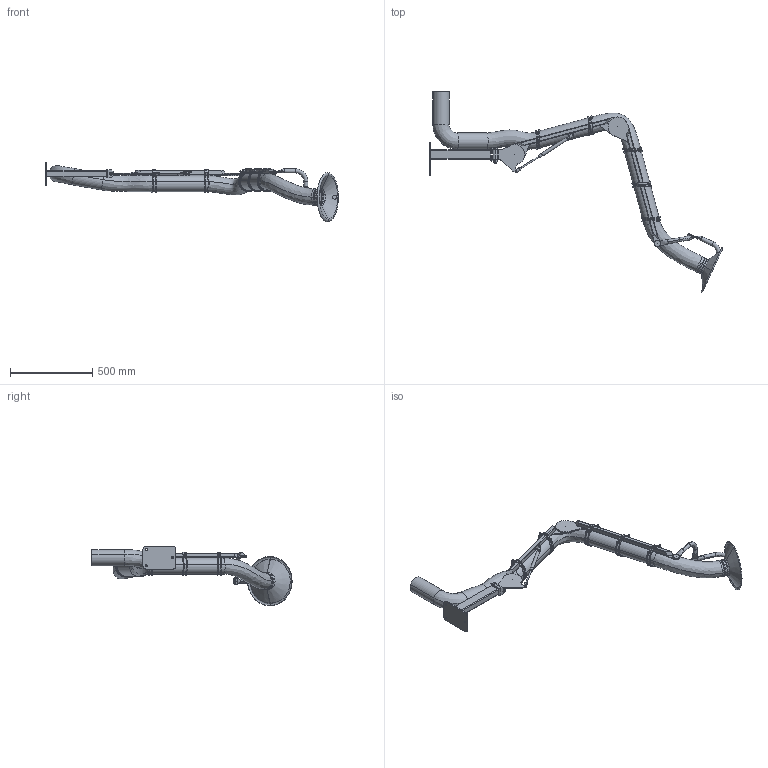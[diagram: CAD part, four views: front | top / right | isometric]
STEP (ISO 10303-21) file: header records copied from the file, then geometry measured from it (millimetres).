
FILE_DESCRIPTION((''),'2;1');
FILE_NAME('PSR_2000-100_EXD','2022-10-04T11:35:21',('Tomas Bellgran'),(''),'CREO PARAMETRIC BY PTC INC, 2018260','CREO PARAMETRIC BY PTC INC, 2018260','');
FILE_SCHEMA(('AUTOMOTIVE_DESIGN { 1 0 10303 214 1 1 1 1 }'));
Length unit declared in the file: millimetre
Products named in the file (34): 141554; 141580; 141581; 122701; 141512; 141556; 141582; 141587; 141522; 121391; 131150; 139380; 131151; 131170; 144356; 141589; 134343_AF0; G_P136_WELD-REF; 141590; 122717_LIGHT; 120127_COMPL_LIGHT; 130315; ROD_STAB_8-160-REF; 131095; 130320_AF25; 131145; 139635; 139656; 139614; 139630; 141638; 124460; 107521-11; PSR_2000-100_EXD
Assembly tree (49 placements, depth 3):
  PSR_2000-100_EXD
    141512
      141554
      141580
      141581
      122701
    141522
      141556
      141582
      141587
    121391  x4
    131150
    131170
      139380
      131151
    144356  x2
    141590
      141589
      134343_AF0
      G_P136_WELD-REF
    122717_LIGHT
    120127_COMPL_LIGHT
    130320_AF25
      130315
      ROD_STAB_8-160-REF
      131095  x2
    131145  x2
    139630
      139635  x3
      139656
      139614
    141638
    124460  x5
    107521-11  x5
Bounding box: 1785.47 x 1221.27 x 362.95 mm (x, y, z)
Volume: 22222713.5 mm3; surface area: 1618730.7 mm2
Topology: 43 solids, 43 shells, 1014 faces, 2412 edges, 1486 vertices
Faces by surface type: plane 364, cylinder 327, bspline 198, torus 66, cone 42, extrusion 15, sphere 2
Entity records: 34807 total; most frequent: CARTESIAN_POINT 12036, DIRECTION 2926, ORIENTED_EDGE 2664, PRESENTATION_STYLE_ASSIGNMENT 1850, STYLED_ITEM 1823, CURVE_STYLE 1339, EDGE_CURVE 1332, AXIS2_PLACEMENT_3D 1158
